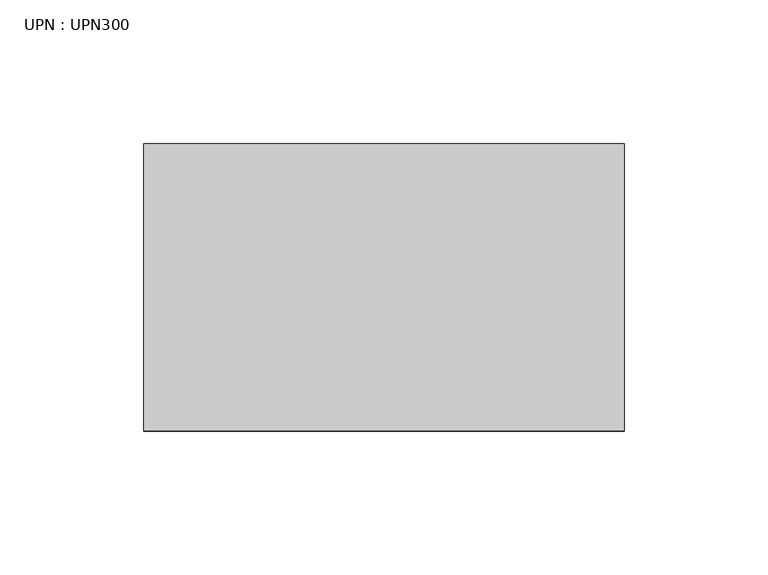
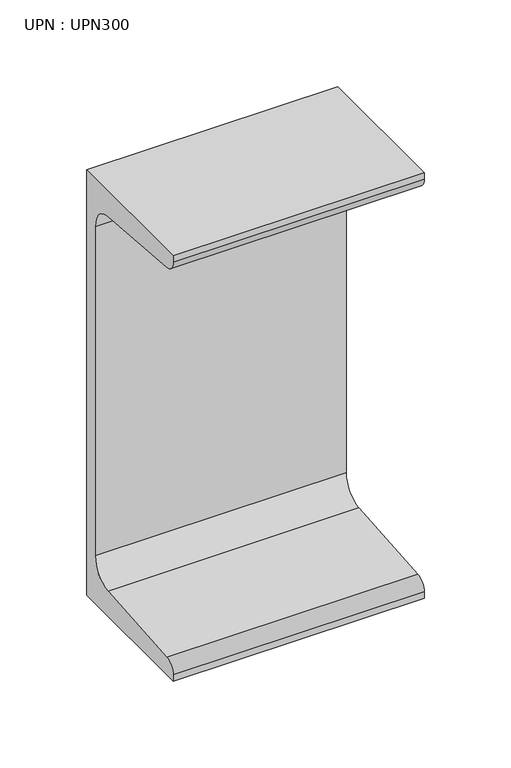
"""IFC4 building model written with IfcOpenShell, lengths in millimetres: beam geometry, UPN : UPN300."""

from ifc_helpers import new_model, si_unit, point, frame, frame_2d, origin, place, context, project, spatial, polyline, circle_curve, trimmed, segment, composite_curve, outline, extrude, source, transform, mapped, element, save


def upn_upn300_b2afd645(model_context):
    return source(origin(), model_context, "Body", "SweptSolid", [
        extrude(outline(composite_curve([segment(polyline([(27.0, 150.0), (27.0, -150.0), (-73.0, -150.0), (-73.0, -145.3826224)]), True, "CONTINUOUS"), segment(trimmed(circle_curve(frame_2d((-65.0, -145.3826224)), 8.0), [point((-73.0, -145.3826224))], [point((-65.637416, -137.4080566))], False, "CARTESIAN"), True, "CONTINUOUS"), segment(polyline([(-65.637416, -137.4080566), (2.274832, -131.9797543)]), True, "CONTINUOUS"), segment(trimmed(circle_curve(frame_2d((1.0, -116.0306225)), 16.0), [point((2.274832, -131.9797543))], [point((17.0, -116.0306225))], True, "CARTESIAN"), True, "CONTINUOUS"), segment(polyline([(17.0, -116.0306225), (17.0, 116.0306225)]), True, "CONTINUOUS"), segment(trimmed(circle_curve(frame_2d((1.0, 116.0306225)), 16.0), [point((17.0, 116.0306225))], [point((2.274832, 131.9797543))], True, "CARTESIAN"), True, "CONTINUOUS"), segment(polyline([(2.274832, 131.9797543), (-65.637416, 137.4080566)]), True, "CONTINUOUS"), segment(trimmed(circle_curve(frame_2d((-65.0, 145.3826224)), 8.0), [point((-65.637416, 137.4080566))], [point((-73.0, 145.3826224))], False, "CARTESIAN"), True, "CONTINUOUS"), segment(polyline([(-73.0, 145.3826224), (-73.0, 150.0), (27.0, 150.0)]), True, "CONTINUOUS")], self_intersect=False)), frame((-83.75, 0.0, 0.0), z_axis=(1.0, 0.0, 0.0), x_axis=(0.0, 1.0, 0.0)), (0.0, 0.0, 1.0), 167.3),
    ])


if __name__ == "__main__":
    model = new_model("IFC4")
    model_context = context("Model", 3, world=origin())
    ifc_project = project(units=[si_unit("LENGTHUNIT", "METRE", prefix="MILLI")], contexts=[model_context])
    site = spatial("IfcSite", under=ifc_project)
    building = spatial("IfcBuilding", under=site)
    placement = place(None, origin())
    upn_upn300_shape = upn_upn300_b2afd645(model_context)
    element("IfcBeam", 1, ObjectType="UPN : UPN300", at=placement, inside=building, context=model_context, shape_type="MappedRepresentation", body=[
        mapped(upn_upn300_shape, transform((0.0, 0.0, 0.0), x_axis=(1.0, 0.0, 0.0), y_axis=(0.0, 1.0, 0.0), z_axis=(0.0, 0.0, 1.0))),
    ])
    save(model, "model.ifc")
